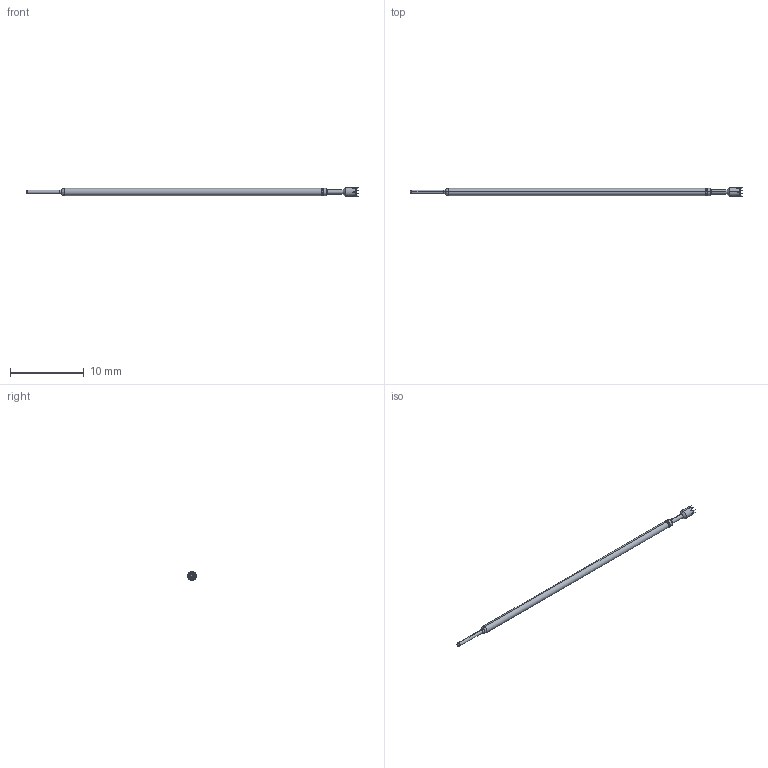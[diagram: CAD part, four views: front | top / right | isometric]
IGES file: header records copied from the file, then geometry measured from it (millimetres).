
Start section: SolidWorks IGES file using analytic representation for surfaces
Global section: file name: C:\Documents and Settings\mrumschlag\Desktop\changes\new\test\Z RECD.IGS; native system: SolidWorks 2011; preprocessor: SolidWorks 2011; author: mrumschlag; date: 110630.142313; units: inch
Bounding box: 45.03 x 1.19 x 1.19 mm (x, y, z)
Surface area: 131.4 mm2 (no closed solid volume)
Topology: 0 solids, 0 shells, 43 faces, 218 edges, 216 vertices
Faces by surface type: bspline 25, revolution 18
